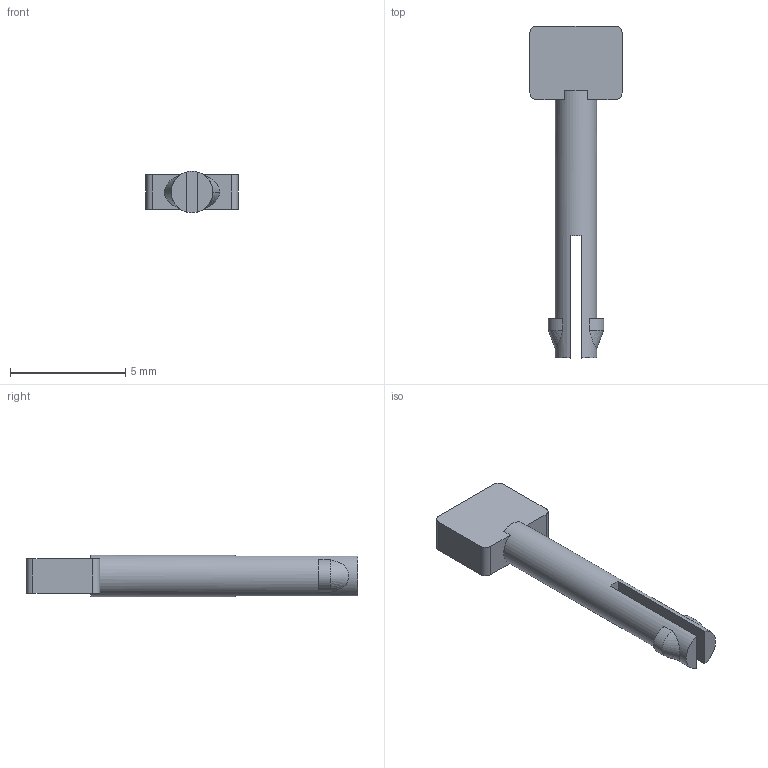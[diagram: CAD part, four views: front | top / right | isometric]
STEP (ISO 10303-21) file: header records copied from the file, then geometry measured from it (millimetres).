
FILE_DESCRIPTION(('Open CASCADE Model'),'2;1');
FILE_NAME('Open CASCADE Shape Model','2026-10-20T15:49:46',('Author'),( 'Open CASCADE'),'Open CASCADE STEP processor 7.8','Open CASCADE 7.8' ,'Unknown');
FILE_SCHEMA(('AUTOMOTIVE_DESIGN { 1 0 10303 214 1 1 1 1 }'));
Length unit declared in the file: millimetre
Products named in the file (1): Open CASCADE STEP translator 7.8 10
Bounding box: 4 x 14.4 x 1.8 mm (x, y, z)
Volume: 43.5 mm3; surface area: 124.4 mm2
Topology: 1 solids, 1 shells, 26 faces, 67 edges, 45 vertices
Faces by surface type: plane 16, cylinder 5, bspline 3, extrusion 2
Full cylindrical faces by diameter (mm): 1.8 x1
Entity records: 2237 total; most frequent: CARTESIAN_POINT 941, DIRECTION 222, ORIENTED_EDGE 134, PCURVE 134, DEFINITIONAL_REPRESENTATION 134, VECTOR 103, LINE 101, EDGE_CURVE 67
